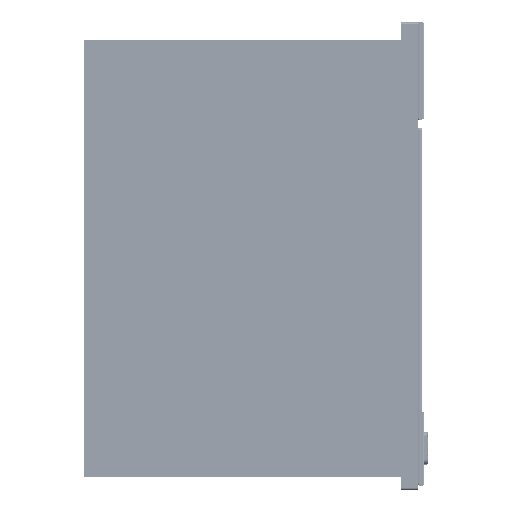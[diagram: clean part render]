
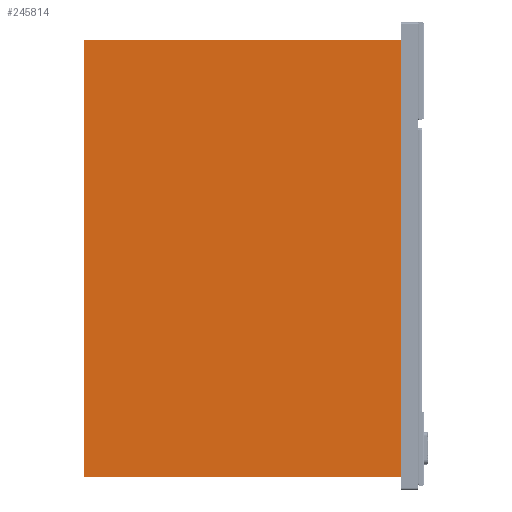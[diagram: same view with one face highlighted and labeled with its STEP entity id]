
A CAD part, left-side view. The second image highlights one B-rep face of the part: STEP entity #245814.
In plain terms, the highlighted planar face has unit normal (-1, 0, 0).
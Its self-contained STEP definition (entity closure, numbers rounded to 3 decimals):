
#15667 = CARTESIAN_POINT ( 'NONE',  ( -281.65, -487.288, 248.828 ) ) ;
#15672 = CARTESIAN_POINT ( 'NONE',  ( -281.65, -487.288, -63.172 ) ) ;
#15674 = CARTESIAN_POINT ( 'NONE',  ( -281.65, -62.971, 248.828 ) ) ;
#15682 = CARTESIAN_POINT ( 'NONE',  ( -281.65, -62.971, -63.172 ) ) ;
#25298 = VERTEX_POINT ( 'NONE', #15667 ) ;
#25300 = VERTEX_POINT ( 'NONE', #15672 ) ;
#25303 = VERTEX_POINT ( 'NONE', #15674 ) ;
#25308 = VERTEX_POINT ( 'NONE', #15682 ) ;
#31640 = EDGE_LOOP ( 'NONE', ( #73115, #73125, #73135, #73145 ) ) ;
#73115 = ORIENTED_EDGE ( 'NONE', *, *, #263660, .T. ) ;
#73125 = ORIENTED_EDGE ( 'NONE', *, *, #263665, .F. ) ;
#73135 = ORIENTED_EDGE ( 'NONE', *, *, #263668, .F. ) ;
#73145 = ORIENTED_EDGE ( 'NONE', *, *, #263653, .T. ) ;
#128214 = AXIS2_PLACEMENT_3D ( 'NONE', #176485, #176511, #176513 ) ;
#176485 = CARTESIAN_POINT ( 'NONE',  ( -281.65, -62.971, -63.172 ) ) ;
#176506 = PLANE ( 'NONE',  #128214 ) ;
#176511 = DIRECTION ( 'NONE',  ( 1., 0., 0. ) ) ;
#176513 = DIRECTION ( 'NONE',  ( 0., 0., -1. ) ) ;
#180211 = FACE_OUTER_BOUND ( 'NONE', #31640, .T. ) ;
#234642 = CARTESIAN_POINT ( 'NONE',  ( -281.65, -62.971, -63.172 ) ) ;
#234670 = CARTESIAN_POINT ( 'NONE',  ( -281.65, -487.288, -63.172 ) ) ;
#234678 = DIRECTION ( 'NONE',  ( 0., 0., 1. ) ) ;
#234691 = CARTESIAN_POINT ( 'NONE',  ( -281.65, -62.971, 248.828 ) ) ;
#234700 = DIRECTION ( 'NONE',  ( 0., 1., 0. ) ) ;
#234704 = CARTESIAN_POINT ( 'NONE',  ( -281.65, -62.971, -63.172 ) ) ;
#234712 = DIRECTION ( 'NONE',  ( 0., 0., 1. ) ) ;
#234717 = DIRECTION ( 'NONE',  ( 0., 1., 0. ) ) ;
#238414 = LINE ( 'NONE', #234670, #238428 ) ;
#238423 = LINE ( 'NONE', #234642, #238467 ) ;
#238428 = VECTOR ( 'NONE', #234678, 1000. ) ;
#238433 = LINE ( 'NONE', #234691, #238447 ) ;
#238442 = LINE ( 'NONE', #234704, #238456 ) ;
#238447 = VECTOR ( 'NONE', #234700, 1000. ) ;
#238456 = VECTOR ( 'NONE', #234712, 1000. ) ;
#238467 = VECTOR ( 'NONE', #234717, 1000. ) ;
#245814 = ADVANCED_FACE ( 'NONE', ( #180211 ), #176506, .F. ) ;
#263653 = EDGE_CURVE ( 'NONE', #25300, #25298, #238414, .T. ) ;
#263660 = EDGE_CURVE ( 'NONE', #25298, #25303, #238433, .T. ) ;
#263665 = EDGE_CURVE ( 'NONE', #25308, #25303, #238442, .T. ) ;
#263668 = EDGE_CURVE ( 'NONE', #25300, #25308, #238423, .T. ) ;
